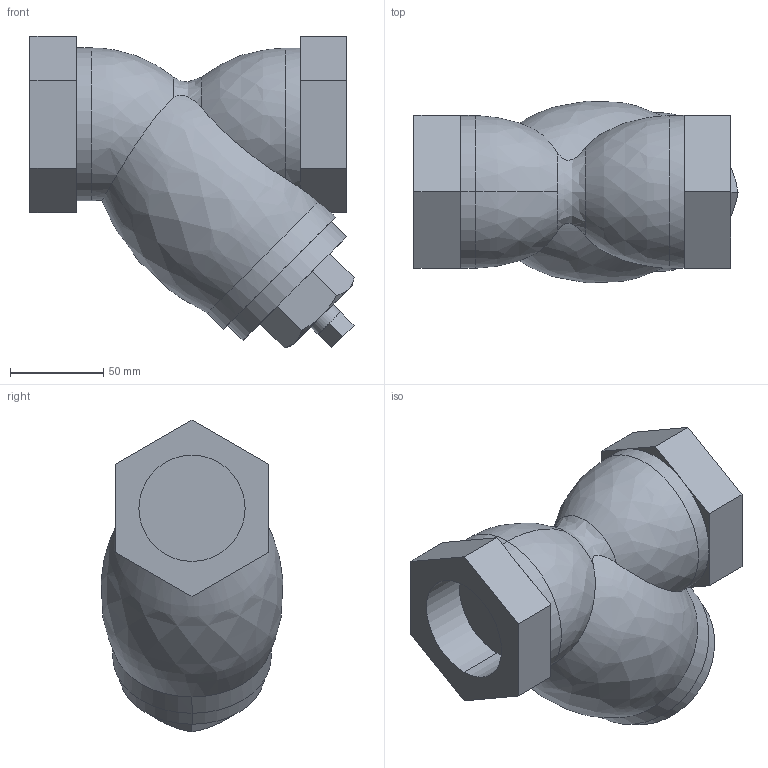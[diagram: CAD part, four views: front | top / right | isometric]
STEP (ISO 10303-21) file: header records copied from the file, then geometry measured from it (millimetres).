
FILE_DESCRIPTION( (''), '2;1');
FILE_NAME ('PC1276.13976.SY-5 50A_1142.stp','2025-09-19T09:18:22',(''),(''),'spGate 20.6.3 (****-****-****-****)','','');
FILE_SCHEMA (('AUTOMOTIVE_DESIGN'));
Length unit declared in the file: millimetre
Bounding box: 174 x 97.59 x 167.34 mm (x, y, z)
Volume: 1244046.3 mm3; surface area: 89928.4 mm2
Topology: 1 solids, 1 shells, 69 faces, 159 edges, 97 vertices
Faces by surface type: plane 45, cylinder 13, bspline 11
Entity records: 3624 total; most frequent: CARTESIAN_POINT 823, ORIENTED_EDGE 318, DIRECTION 284, COLOUR_RGB 229, PRESENTATION_STYLE_ASSIGNMENT 229, STYLED_ITEM 229, EDGE_CURVE 159, DRAUGHTING_PRE_DEFINED_CURVE_FONT 159
